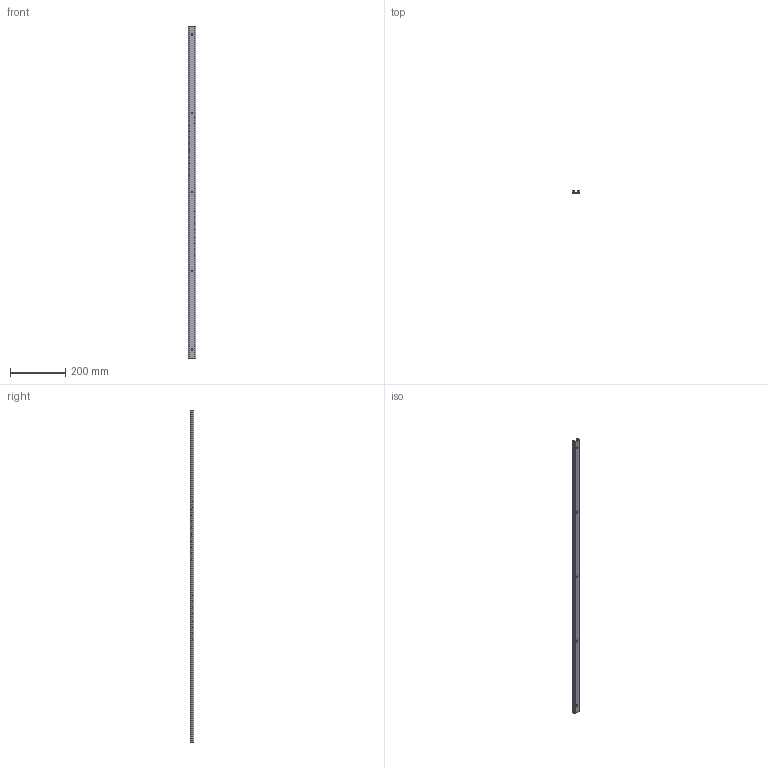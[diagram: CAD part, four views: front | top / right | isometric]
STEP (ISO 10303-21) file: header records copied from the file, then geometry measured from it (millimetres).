
FILE_DESCRIPTION (( 'STEP AP214' ), '1' );
FILE_NAME ('C-skena 1200mm.STEP', '2014-04-10T14:30:48', ( '' ), ( '' ), 'SwSTEP 2.0', 'SolidWorks 2012', '' );
FILE_SCHEMA (( 'AUTOMOTIVE_DESIGN' ));
Length unit declared in the file: millimetre
Products named in the file (1): C-skena 1200mm
Bounding box: 27 x 12 x 1200 mm (x, y, z)
Volume: 130446.2 mm3; surface area: 135798.9 mm2
Topology: 1 solids, 1 shells, 32 faces, 90 edges, 60 vertices
Faces by surface type: plane 14, cone 10, cylinder 8
Entity records: 1346 total; most frequent: DIRECTION 192, CARTESIAN_POINT 183, ORIENTED_EDGE 180, EDGE_CURVE 90, AXIS2_PLACEMENT_3D 69, VERTEX_POINT 60, VECTOR 54, LINE 54
